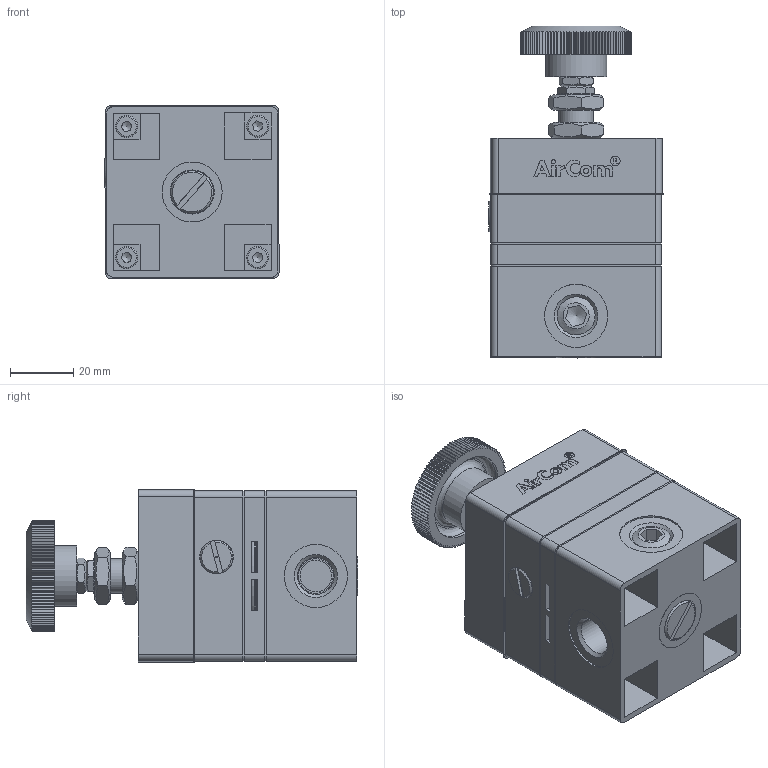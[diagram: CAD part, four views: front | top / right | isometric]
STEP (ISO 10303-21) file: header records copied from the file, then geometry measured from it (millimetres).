
FILE_DESCRIPTION((''),'2;1');
FILE_NAME('F:\AirCom-Produktdokumentation\Druckregler\53-10\CAD\CAD AirCom\3D\B-5310024x.stp','2008-10-31T11:19:29',('Frank Schroers'),(''),'Autodesk Inventor 2008','Autodesk Inventor 2008','');
FILE_SCHEMA(('AUTOMOTIVE_DESIGN { 1 0 10303 214 1 1 1 1 }'));
Length unit declared in the file: millimetre
Products named in the file (15): B-5310024x-webshop; B-Manostat-Unterteil; B-Manostat-Membrane2; B-Manostat-Membranadapter; B-Manostat-Membrane1; B-Manostat-Membranoberteil; B-Manostat-Dichtung1; B-Manostat-Oberteil; DIN EN 24035 M10; DIN EN 24035 M6; B-Manostat-Sieb; B-Manostat-Unterteil-Verschluss; B-Manostat-Membranoberteil-Verschluss; ISO 4762 M4 x 40; ISO 4029 M12 x 12
Assembly tree (20 placements, depth 2):
  B-5310024x-webshop
    B-Manostat-Unterteil
    B-Manostat-Membrane2
    B-Manostat-Membranadapter
    B-Manostat-Membrane1
    B-Manostat-Membranoberteil
    B-Manostat-Dichtung1
    B-Manostat-Oberteil
    DIN EN 24035 M10  x2
    DIN EN 24035 M6  x2
    B-Manostat-Sieb
    B-Manostat-Unterteil-Verschluss
    B-Manostat-Membranoberteil-Verschluss
    ISO 4762 M4 x 40  x4
    ISO 4029 M12 x 12  x2
Bounding box: 55.11 x 105.1 x 55.04 mm (x, y, z)
Volume: 128353.3 mm3; surface area: 88564.2 mm2
Topology: 20 solids, 20 shells, 1157 faces, 2891 edges, 1856 vertices
Faces by surface type: plane 622, cylinder 372, bspline 74, cone 62, torus 23, sphere 4
Full cylindrical faces by diameter (mm): 0.5 x1, 0.9 x1, 1.315 x1, 1.5 x1, 1.56 x1, 2 x5, 2.4 x6, 2.6 x1, 2.65 x1, 3 x8, 3.06 x1, 3.1 x1, 3.4 x9, 3.5 x1, 3.72 x4, 3.9 x1, 4 x5, 4.1 x2, 4.34 x1, 4.45 x1, 4.5 x8, 5.55 x1, 6 x25, 6.3 x2, 6.5 x10, 6.97 x1, 7 x4, 7.4 x1, 7.471 x1, 7.7 x1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
Entity records: 38570 total; most frequent: CARTESIAN_POINT 13538, DIRECTION 5026, ORIENTED_EDGE 4832, EDGE_CURVE 2416, AXIS2_PLACEMENT_3D 1901, VERTEX_POINT 1696, EDGE_LOOP 1510, VECTOR 1224
